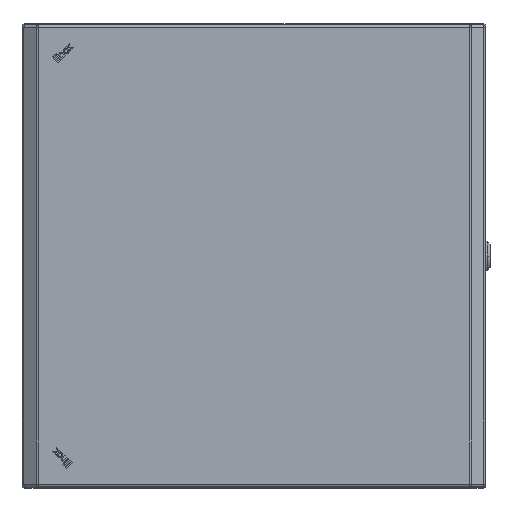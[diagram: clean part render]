
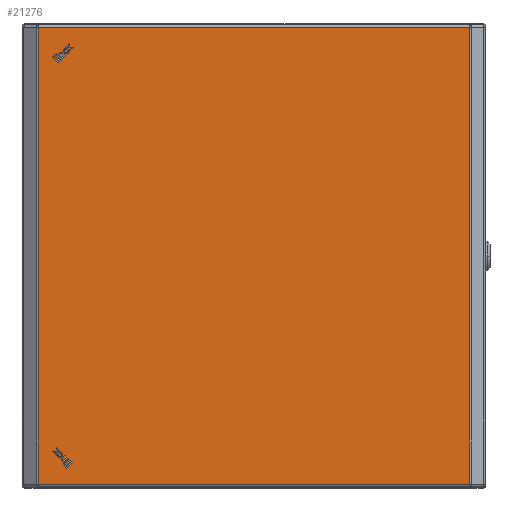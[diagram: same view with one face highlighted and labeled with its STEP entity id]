
A CAD part, top view. The second image highlights one B-rep face of the part: STEP entity #21276.
In plain terms, the highlighted planar face has unit normal (0, 0, 1).
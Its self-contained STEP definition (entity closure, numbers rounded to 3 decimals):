
#846 = VERTEX_POINT ( 'NONE', #10071 ) ;
#1120 = EDGE_CURVE ( 'NONE', #11278, #6862, #18054, .T. ) ;
#1878 = CARTESIAN_POINT ( 'NONE',  ( 209.294, -224.35, 26.5 ) ) ;
#2108 = CARTESIAN_POINT ( 'NONE',  ( 210.25, -221.35, 26.5 ) ) ;
#3484 = CARTESIAN_POINT ( 'NONE',  ( -210.25, 221.35, 26.5 ) ) ;
#4106 = DIRECTION ( 'NONE',  ( 1., 0., 0. ) ) ;
#6862 = VERTEX_POINT ( 'NONE', #24307 ) ;
#6892 = PLANE ( 'NONE',  #10149 ) ;
#8667 = EDGE_CURVE ( 'NONE', #846, #12713, #8916, .T. ) ;
#8916 = LINE ( 'NONE', #30139, #27010 ) ;
#9118 = DIRECTION ( 'NONE',  ( 0., 1., 0. ) ) ;
#9182 = LINE ( 'NONE', #2108, #11770 ) ;
#10071 = CARTESIAN_POINT ( 'NONE',  ( -209.294, 221.35, 26.5 ) ) ;
#10149 = AXIS2_PLACEMENT_3D ( 'NONE', #14096, #20893, #30419 ) ;
#11278 = VERTEX_POINT ( 'NONE', #22184 ) ;
#11770 = VECTOR ( 'NONE', #4106, 1000. ) ;
#12713 = VERTEX_POINT ( 'NONE', #22191 ) ;
#12828 = ORIENTED_EDGE ( 'NONE', *, *, #28046, .T. ) ;
#12829 = VECTOR ( 'NONE', #17807, 1000. ) ;
#14096 = CARTESIAN_POINT ( 'NONE',  ( 224.35, -224.35, 26.5 ) ) ;
#17807 = DIRECTION ( 'NONE',  ( -1., 0., 0. ) ) ;
#18054 = LINE ( 'NONE', #1878, #25954 ) ;
#20893 = DIRECTION ( 'NONE',  ( 0., 0., 1. ) ) ;
#21046 = FACE_OUTER_BOUND ( 'NONE', #26067, .T. ) ;
#21071 = DIRECTION ( 'NONE',  ( 0., -1., 0. ) ) ;
#21276 = ADVANCED_FACE ( 'NONE', ( #21046 ), #6892, .T. ) ;
#22184 = CARTESIAN_POINT ( 'NONE',  ( 209.294, -221.35, 26.5 ) ) ;
#22191 = CARTESIAN_POINT ( 'NONE',  ( -209.294, -221.35, 26.5 ) ) ;
#22769 = ORIENTED_EDGE ( 'NONE', *, *, #26572, .T. ) ;
#24307 = CARTESIAN_POINT ( 'NONE',  ( 209.294, 221.35, 26.5 ) ) ;
#24588 = LINE ( 'NONE', #3484, #12829 ) ;
#25954 = VECTOR ( 'NONE', #9118, 1000. ) ;
#26067 = EDGE_LOOP ( 'NONE', ( #29565, #22769, #28446, #12828 ) ) ;
#26572 = EDGE_CURVE ( 'NONE', #12713, #11278, #9182, .T. ) ;
#27010 = VECTOR ( 'NONE', #21071, 1000. ) ;
#28046 = EDGE_CURVE ( 'NONE', #6862, #846, #24588, .T. ) ;
#28446 = ORIENTED_EDGE ( 'NONE', *, *, #1120, .T. ) ;
#29565 = ORIENTED_EDGE ( 'NONE', *, *, #8667, .T. ) ;
#30139 = CARTESIAN_POINT ( 'NONE',  ( -209.294, -224.35, 26.5 ) ) ;
#30419 = DIRECTION ( 'NONE',  ( 1., 0., 0. ) ) ;
